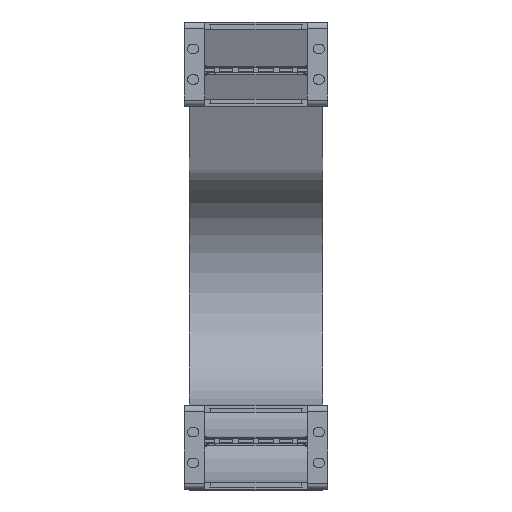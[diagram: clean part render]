
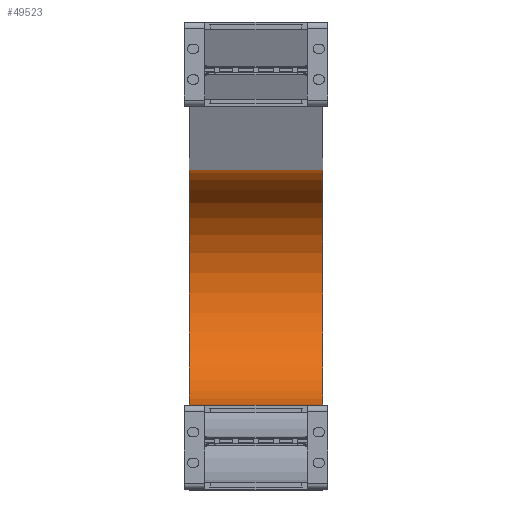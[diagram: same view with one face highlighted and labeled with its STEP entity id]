
A CAD part, top view. The second image highlights one B-rep face of the part: STEP entity #49523.
In plain terms, the highlighted cylindrical face has radius 57.5 mm (diameter 115 mm), a partial arc.
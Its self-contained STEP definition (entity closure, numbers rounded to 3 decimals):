
#48675=DIRECTION('',(-1.,0.,0.));
#48676=VECTOR('',#48675,65.);
#48677=CARTESIAN_POINT('',(32.5,41.,-400.));
#48678=LINE('',#48677,#48676);
#48689=DIRECTION('',(-1.,0.,0.));
#48690=VECTOR('',#48689,65.);
#48691=CARTESIAN_POINT('',(32.5,155.782,-405.006));
#48692=LINE('',#48691,#48690);
#48696=CARTESIAN_POINT('',(32.5,98.5,-400.));
#48697=DIRECTION('',(-1.,0.,0.));
#48698=DIRECTION('',(0.,0.996,-0.087));
#48699=AXIS2_PLACEMENT_3D('',#48696,#48697,#48698);
#48775=CARTESIAN_POINT('',(-32.5,98.5,-400.));
#48776=DIRECTION('',(-1.,0.,0.));
#48777=DIRECTION('',(0.,0.996,-0.087));
#48778=AXIS2_PLACEMENT_3D('',#48775,#48776,#48777);
#48897=CARTESIAN_POINT('',(32.5,155.782,-405.006));
#48898=CARTESIAN_POINT('',(-32.5,155.782,-405.006));
#48899=VERTEX_POINT('',#48897);
#48900=VERTEX_POINT('',#48898);
#48921=CARTESIAN_POINT('',(32.5,41.,-400.));
#48922=CARTESIAN_POINT('',(-32.5,41.,-400.));
#48923=VERTEX_POINT('',#48921);
#48924=VERTEX_POINT('',#48922);
#49509=CARTESIAN_POINT('',(1.,98.5,-400.));
#49510=DIRECTION('',(-1.,0.,0.));
#49511=DIRECTION('',(0.,-0.996,0.087));
#49512=AXIS2_PLACEMENT_3D('',#49509,#49510,#49511);
#49513=CYLINDRICAL_SURFACE('',#49512,57.5);
#49515=ORIENTED_EDGE('',*,*,#49514,.F.);
#49517=ORIENTED_EDGE('',*,*,#49516,.T.);
#49518=ORIENTED_EDGE('',*,*,#49492,.T.);
#49520=ORIENTED_EDGE('',*,*,#49519,.F.);
#49521=EDGE_LOOP('',(#49515,#49517,#49518,#49520));
#49522=FACE_OUTER_BOUND('',#49521,.F.);
#48700=CIRCLE('',#48699,57.5);
#48779=CIRCLE('',#48778,57.5);
#49492=EDGE_CURVE('',#48923,#48924,#48678,.T.);
#49514=EDGE_CURVE('',#48899,#48900,#48692,.T.);
#49516=EDGE_CURVE('',#48899,#48923,#48700,.T.);
#49519=EDGE_CURVE('',#48900,#48924,#48779,.T.);
#49523=ADVANCED_FACE('',(#49522),#49513,.F.);
